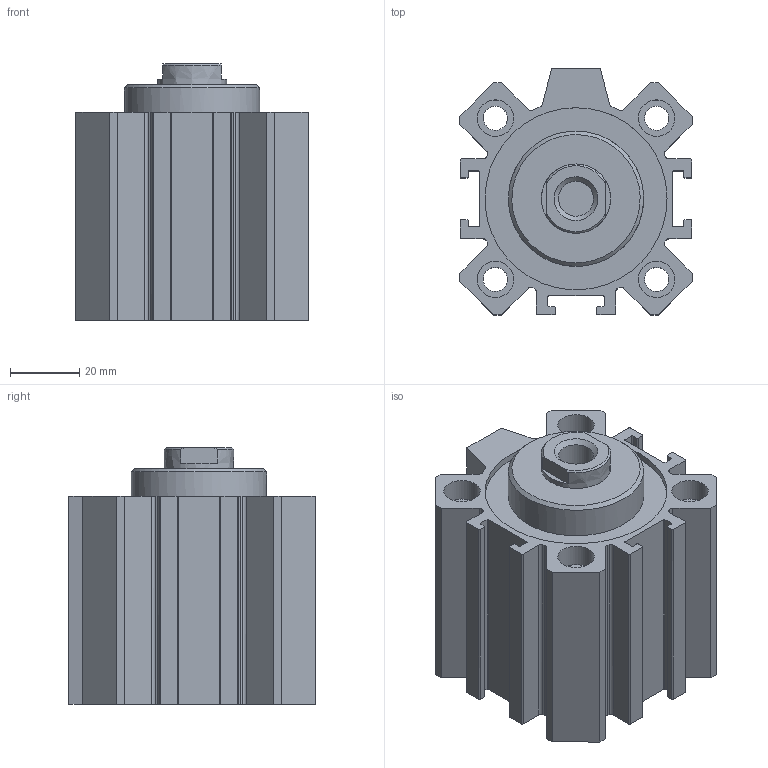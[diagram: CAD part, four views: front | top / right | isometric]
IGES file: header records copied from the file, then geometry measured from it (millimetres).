
Global section: file name: 1511_50_0020; native system: Autodesk Inventor 2014; preprocessor: unknown; author: A. Manieri; date: 20160824.134004; units: millimetre
Bounding box: 67 x 71 x 74 mm (x, y, z)
Volume: 181969.7 mm3; surface area: 57677.8 mm2
Topology: 2 solids, 2 shells, 165 faces, 443 edges, 300 vertices
Faces by surface type: bspline 165
